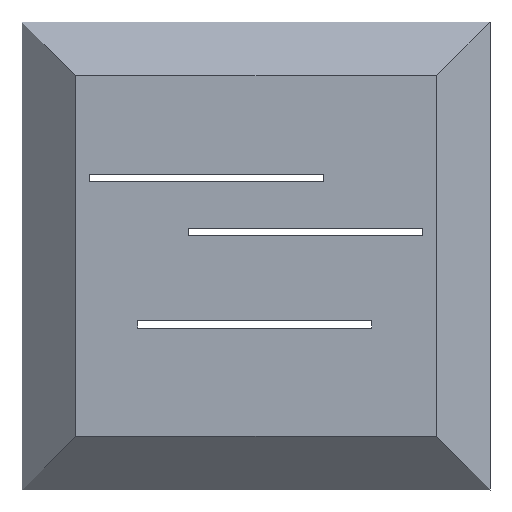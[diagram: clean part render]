
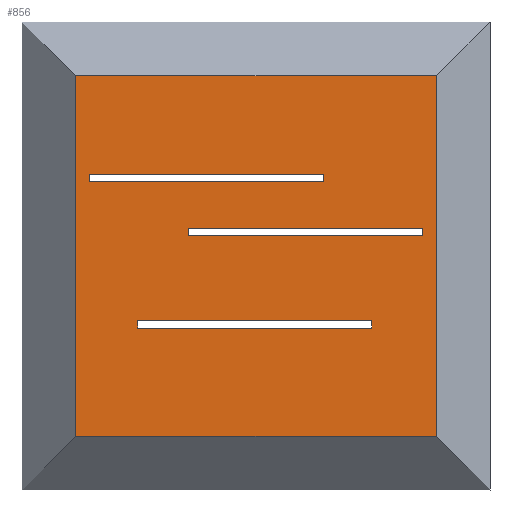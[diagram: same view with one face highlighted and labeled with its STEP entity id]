
A CAD part, front view. The second image highlights one B-rep face of the part: STEP entity #856.
In plain terms, the highlighted planar face has unit normal (0, -1, 0) as drawn and (0, 1, 0) by its records, which use the part's own axes.
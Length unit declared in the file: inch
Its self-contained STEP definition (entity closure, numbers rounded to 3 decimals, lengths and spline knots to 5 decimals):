
#3 = VERTEX_POINT ( 'NONE', #57 ) ;
#4 = DIRECTION ( 'NONE',  ( 0., -1., 0. ) ) ;
#7 = FACE_BOUND ( 'NONE', #55, .T. ) ;
#12 = EDGE_CURVE ( 'NONE', #303, #827, #725, .T. ) ;
#16 = ORIENTED_EDGE ( 'NONE', *, *, #828, .F. ) ;
#23 = VERTEX_POINT ( 'NONE', #411 ) ;
#24 = VECTOR ( 'NONE', #128, 39.37008 ) ;
#39 = VECTOR ( 'NONE', #354, 39.37008 ) ;
#55 = EDGE_LOOP ( 'NONE', ( #860, #560, #818, #82 ) ) ;
#56 = CARTESIAN_POINT ( 'NONE',  ( 3.31057, 0.475, -12.56992 ) ) ;
#57 = CARTESIAN_POINT ( 'NONE',  ( 15.31057, 0.475, -12.94492 ) ) ;
#60 = LINE ( 'NONE', #251, #431 ) ;
#81 = DIRECTION ( 'NONE',  ( 0., 0., 1. ) ) ;
#82 = ORIENTED_EDGE ( 'NONE', *, *, #371, .F. ) ;
#92 = CARTESIAN_POINT ( 'NONE',  ( 5.77692, 0.475, -5.43571 ) ) ;
#109 = DIRECTION ( 'NONE',  ( 0., 0., 1. ) ) ;
#110 = CARTESIAN_POINT ( 'NONE',  ( 0.72308, 0.475, -8.19495 ) ) ;
#111 = EDGE_CURVE ( 'NONE', #897, #258, #899, .T. ) ;
#128 = DIRECTION ( 'NONE',  ( 0., 0., 1. ) ) ;
#158 = ORIENTED_EDGE ( 'NONE', *, *, #504, .T. ) ;
#164 = ORIENTED_EDGE ( 'NONE', *, *, #12, .F. ) ;
#176 = LINE ( 'NONE', #260, #446 ) ;
#179 = ORIENTED_EDGE ( 'NONE', *, *, #719, .T. ) ;
#188 = EDGE_LOOP ( 'NONE', ( #158, #384, #179, #467 ) ) ;
#189 = DIRECTION ( 'NONE',  ( 0., 0., -1. ) ) ;
#191 = ORIENTED_EDGE ( 'NONE', *, *, #797, .F. ) ;
#195 = LINE ( 'NONE', #56, #792 ) ;
#202 = DIRECTION ( 'NONE',  ( 0., 0., 1. ) ) ;
#212 = DIRECTION ( 'NONE',  ( -1., 0., 0. ) ) ;
#241 = CARTESIAN_POINT ( 'NONE',  ( 15.31057, 0.475, -12.94492 ) ) ;
#251 = CARTESIAN_POINT ( 'NONE',  ( 18.5, 0.475, 0. ) ) ;
#252 = CARTESIAN_POINT ( 'NONE',  ( 0., 0.475, -18.5 ) ) ;
#256 = CARTESIAN_POINT ( 'NONE',  ( 5.77692, 0.475, -5.43571 ) ) ;
#258 = VERTEX_POINT ( 'NONE', #252 ) ;
#260 = CARTESIAN_POINT ( 'NONE',  ( 5.77692, 0.475, -5.06071 ) ) ;
#267 = DIRECTION ( 'NONE',  ( 1., 0., 0. ) ) ;
#270 = VERTEX_POINT ( 'NONE', #758 ) ;
#280 = VERTEX_POINT ( 'NONE', #468 ) ;
#285 = VERTEX_POINT ( 'NONE', #673 ) ;
#296 = LINE ( 'NONE', #241, #775 ) ;
#303 = VERTEX_POINT ( 'NONE', #536 ) ;
#307 = CARTESIAN_POINT ( 'NONE',  ( 0.72308, 0.475, -8.19495 ) ) ;
#314 = EDGE_CURVE ( 'NONE', #280, #270, #606, .T. ) ;
#320 = VECTOR ( 'NONE', #465, 39.37008 ) ;
#327 = ORIENTED_EDGE ( 'NONE', *, *, #883, .F. ) ;
#331 = DIRECTION ( 'NONE',  ( -1., 0., 0. ) ) ;
#334 = CARTESIAN_POINT ( 'NONE',  ( 5.77692, 0.475, -5.06071 ) ) ;
#336 = LINE ( 'NONE', #832, #419 ) ;
#338 = EDGE_CURVE ( 'NONE', #359, #582, #610, .T. ) ;
#354 = DIRECTION ( 'NONE',  ( 0., 0., -1. ) ) ;
#355 = LINE ( 'NONE', #556, #616 ) ;
#359 = VERTEX_POINT ( 'NONE', #813 ) ;
#360 = VECTOR ( 'NONE', #109, 39.37008 ) ;
#368 = EDGE_LOOP ( 'NONE', ( #164, #191, #764, #16 ) ) ;
#371 = EDGE_CURVE ( 'NONE', #23, #285, #336, .T. ) ;
#384 = ORIENTED_EDGE ( 'NONE', *, *, #314, .T. ) ;
#396 = CARTESIAN_POINT ( 'NONE',  ( 0., 0.475, 0. ) ) ;
#405 = CARTESIAN_POINT ( 'NONE',  ( 15.31057, 0.475, -12.56992 ) ) ;
#411 = CARTESIAN_POINT ( 'NONE',  ( 17.77692, 0.475, -5.06071 ) ) ;
#415 = FACE_BOUND ( 'NONE', #794, .T. ) ;
#419 = VECTOR ( 'NONE', #501, 39.37008 ) ;
#421 = LINE ( 'NONE', #773, #768 ) ;
#431 = VECTOR ( 'NONE', #189, 39.37008 ) ;
#440 = LINE ( 'NONE', #509, #690 ) ;
#446 = VECTOR ( 'NONE', #822, 39.37008 ) ;
#465 = DIRECTION ( 'NONE',  ( 1., 0., 0. ) ) ;
#467 = ORIENTED_EDGE ( 'NONE', *, *, #111, .T. ) ;
#468 = CARTESIAN_POINT ( 'NONE',  ( 0., 0.475, 0. ) ) ;
#491 = ORIENTED_EDGE ( 'NONE', *, *, #723, .F. ) ;
#496 = CARTESIAN_POINT ( 'NONE',  ( 18.5, 0.475, -18.5 ) ) ;
#501 = DIRECTION ( 'NONE',  ( 0., 0., -1. ) ) ;
#504 = EDGE_CURVE ( 'NONE', #258, #280, #421, .T. ) ;
#507 = VECTOR ( 'NONE', #331, 39.37008 ) ;
#509 = CARTESIAN_POINT ( 'NONE',  ( 5.77692, 0.475, -5.43571 ) ) ;
#518 = DIRECTION ( 'NONE',  ( 0., 0., -1. ) ) ;
#524 = ORIENTED_EDGE ( 'NONE', *, *, #595, .F. ) ;
#532 = LINE ( 'NONE', #747, #39 ) ;
#536 = CARTESIAN_POINT ( 'NONE',  ( 0.72308, 0.475, -7.81995 ) ) ;
#537 = EDGE_CURVE ( 'NONE', #709, #627, #355, .T. ) ;
#555 = EDGE_CURVE ( 'NONE', #285, #602, #440, .T. ) ;
#556 = CARTESIAN_POINT ( 'NONE',  ( 3.31057, 0.475, -12.94492 ) ) ;
#560 = ORIENTED_EDGE ( 'NONE', *, *, #814, .F. ) ;
#561 = CARTESIAN_POINT ( 'NONE',  ( 0., 0.475, 0. ) ) ;
#582 = VERTEX_POINT ( 'NONE', #307 ) ;
#595 = EDGE_CURVE ( 'NONE', #671, #3, #296, .T. ) ;
#602 = VERTEX_POINT ( 'NONE', #92 ) ;
#606 = LINE ( 'NONE', #396, #320 ) ;
#610 = LINE ( 'NONE', #110, #507 ) ;
#616 = VECTOR ( 'NONE', #81, 39.37008 ) ;
#618 = FACE_OUTER_BOUND ( 'NONE', #188, .T. ) ;
#622 = PLANE ( 'NONE',  #882 ) ;
#625 = FACE_BOUND ( 'NONE', #368, .T. ) ;
#627 = VERTEX_POINT ( 'NONE', #716 ) ;
#631 = LINE ( 'NONE', #846, #853 ) ;
#662 = DIRECTION ( 'NONE',  ( -1., 0., 0. ) ) ;
#671 = VERTEX_POINT ( 'NONE', #405 ) ;
#673 = CARTESIAN_POINT ( 'NONE',  ( 17.77692, 0.475, -5.43571 ) ) ;
#686 = CARTESIAN_POINT ( 'NONE',  ( 0., 0.475, -18.5 ) ) ;
#690 = VECTOR ( 'NONE', #662, 39.37008 ) ;
#692 = DIRECTION ( 'NONE',  ( 0., 0., -1. ) ) ;
#708 = VECTOR ( 'NONE', #761, 39.37008 ) ;
#709 = VERTEX_POINT ( 'NONE', #817 ) ;
#716 = CARTESIAN_POINT ( 'NONE',  ( 3.31057, 0.475, -12.56992 ) ) ;
#719 = EDGE_CURVE ( 'NONE', #270, #897, #60, .T. ) ;
#723 = EDGE_CURVE ( 'NONE', #627, #671, #195, .T. ) ;
#725 = LINE ( 'NONE', #895, #770 ) ;
#731 = EDGE_CURVE ( 'NONE', #759, #23, #176, .T. ) ;
#744 = CARTESIAN_POINT ( 'NONE',  ( 0.72308, 0.475, -8.19495 ) ) ;
#747 = CARTESIAN_POINT ( 'NONE',  ( 12.72308, 0.475, -8.19495 ) ) ;
#751 = LINE ( 'NONE', #744, #24 ) ;
#758 = CARTESIAN_POINT ( 'NONE',  ( 18.5, 0.475, 0. ) ) ;
#759 = VERTEX_POINT ( 'NONE', #334 ) ;
#761 = DIRECTION ( 'NONE',  ( -1., 0., 0. ) ) ;
#764 = ORIENTED_EDGE ( 'NONE', *, *, #338, .F. ) ;
#768 = VECTOR ( 'NONE', #202, 39.37008 ) ;
#770 = VECTOR ( 'NONE', #823, 39.37008 ) ;
#773 = CARTESIAN_POINT ( 'NONE',  ( 0., 0.475, 0. ) ) ;
#775 = VECTOR ( 'NONE', #518, 39.37008 ) ;
#792 = VECTOR ( 'NONE', #267, 39.37008 ) ;
#794 = EDGE_LOOP ( 'NONE', ( #491, #808, #327, #524 ) ) ;
#797 = EDGE_CURVE ( 'NONE', #582, #303, #751, .T. ) ;
#808 = ORIENTED_EDGE ( 'NONE', *, *, #537, .F. ) ;
#813 = CARTESIAN_POINT ( 'NONE',  ( 12.72308, 0.475, -8.19495 ) ) ;
#814 = EDGE_CURVE ( 'NONE', #602, #759, #875, .T. ) ;
#817 = CARTESIAN_POINT ( 'NONE',  ( 3.31057, 0.475, -12.94492 ) ) ;
#818 = ORIENTED_EDGE ( 'NONE', *, *, #555, .F. ) ;
#822 = DIRECTION ( 'NONE',  ( 1., 0., 0. ) ) ;
#823 = DIRECTION ( 'NONE',  ( 1., 0., 0. ) ) ;
#827 = VERTEX_POINT ( 'NONE', #884 ) ;
#828 = EDGE_CURVE ( 'NONE', #827, #359, #532, .T. ) ;
#832 = CARTESIAN_POINT ( 'NONE',  ( 17.77692, 0.475, -5.43571 ) ) ;
#846 = CARTESIAN_POINT ( 'NONE',  ( 3.31057, 0.475, -12.94492 ) ) ;
#853 = VECTOR ( 'NONE', #212, 39.37008 ) ;
#856 = ADVANCED_FACE ( 'NONE', ( #415, #625, #7, #618 ), #622, .F. ) ;
#860 = ORIENTED_EDGE ( 'NONE', *, *, #731, .F. ) ;
#875 = LINE ( 'NONE', #256, #360 ) ;
#882 = AXIS2_PLACEMENT_3D ( 'NONE', #561, #4, #692 ) ;
#883 = EDGE_CURVE ( 'NONE', #3, #709, #631, .T. ) ;
#884 = CARTESIAN_POINT ( 'NONE',  ( 12.72308, 0.475, -7.81995 ) ) ;
#895 = CARTESIAN_POINT ( 'NONE',  ( 0.72308, 0.475, -7.81995 ) ) ;
#897 = VERTEX_POINT ( 'NONE', #496 ) ;
#899 = LINE ( 'NONE', #686, #708 ) ;
